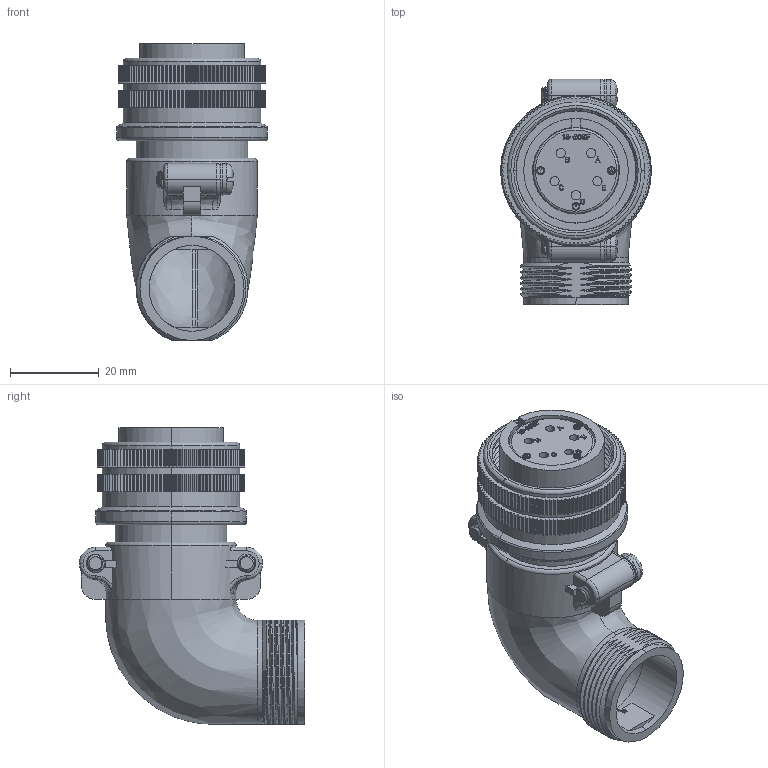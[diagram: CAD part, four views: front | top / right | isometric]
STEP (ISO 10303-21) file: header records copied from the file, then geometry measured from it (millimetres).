
FILE_DESCRIPTION (( 'STEP AP203' ), '1' );
FILE_NAME ('DMS3108B18-20S.STEP', '2017-08-07T02:11:52', ( '' ), ( '' ), 'SwSTEP 2.0', 'SolidWorks 2015', '' );
FILE_SCHEMA (( 'CONFIG_CONTROL_DESIGN' ));
Products named in the file (1): DMS3108B18-20S
Bounding box: 34.08 x 50.84 x 67 mm (x, y, z)
Volume: 29310.7 mm3; surface area: 23040.8 mm2
Topology: 1 solids, 1 shells, 2528 faces, 7275 edges, 4829 vertices
Faces by surface type: cylinder 1223, plane 921, bspline 322, torus 36, cone 22, sphere 4
Entity records: 108281 total; most frequent: CARTESIAN_POINT 42491, ORIENTED_EDGE 14550, DIRECTION 13163, EDGE_CURVE 7275, VERTEX_POINT 4829, AXIS2_PLACEMENT_3D 4630, LINE 3903, VECTOR 3903
